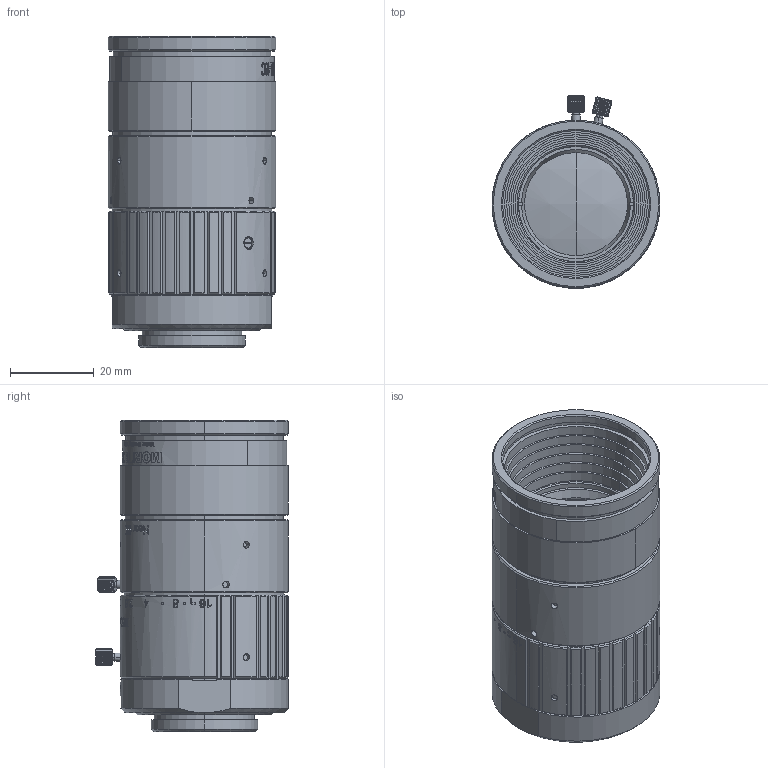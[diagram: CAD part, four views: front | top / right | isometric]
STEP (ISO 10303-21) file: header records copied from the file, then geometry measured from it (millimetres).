
FILE_DESCRIPTION (( 'STEP AP203' ), '1' );
FILE_NAME ('A23518A0000101A.STEP', '2019-05-30T05:07:11', ( '' ), ( '' ), 'SwSTEP 2.0', 'SolidWorks 2014', '' );
FILE_SCHEMA (( 'CONFIG_CONTROL_DESIGN' ));
Length unit declared in the file: millimetre
Products named in the file (1): A23518A0000101A
Bounding box: 40 x 45.89 x 74.09 mm (x, y, z)
Volume: 67289.2 mm3; surface area: 17099.7 mm2
Topology: 1 solids, 2 shells, 1633 faces, 4421 edges, 2929 vertices
Faces by surface type: bspline 699, plane 416, cylinder 396, cone 118, sphere 4
Entity records: 88270 total; most frequent: CARTESIAN_POINT 54129, ORIENTED_EDGE 8842, EDGE_CURVE 4421, DIRECTION 4100, VERTEX_POINT 2929, B_SPLINE_CURVE_WITH_KNOTS 2821, EDGE_LOOP 1772, ADVANCED_FACE 1633
